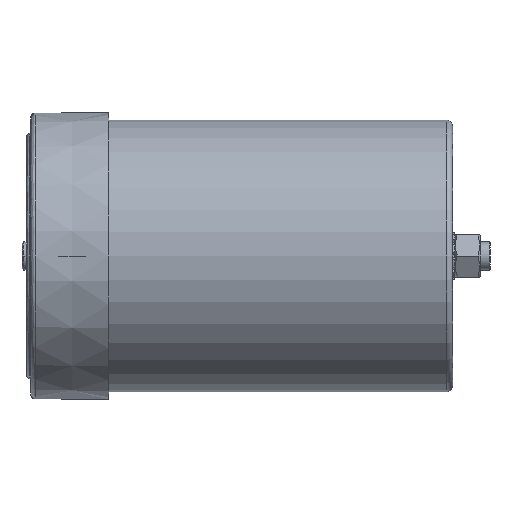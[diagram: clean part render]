
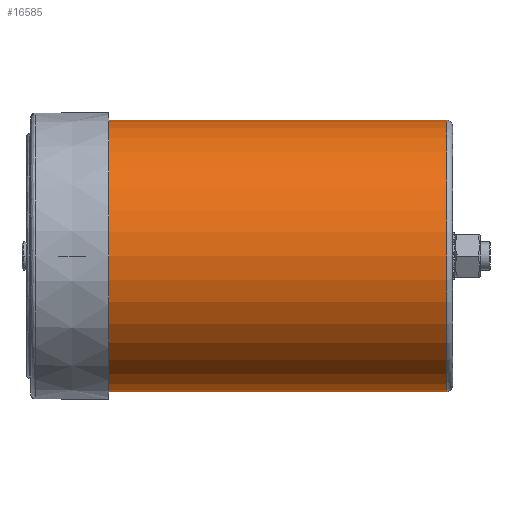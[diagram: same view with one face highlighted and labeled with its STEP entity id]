
A CAD part, left-side view. The second image highlights one B-rep face of the part: STEP entity #16585.
In plain terms, the highlighted cylindrical face has radius 58 mm (diameter 116 mm), a partial arc.
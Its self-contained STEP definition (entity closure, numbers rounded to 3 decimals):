
#382 = DIRECTION ( 'NONE',  ( 0., -1., 0. ) ) ;
#1664 = VERTEX_POINT ( 'NONE', #2000 ) ;
#1914 = CARTESIAN_POINT ( 'NONE',  ( 0., -177.4, 58. ) ) ;
#1940 = DIRECTION ( 'NONE',  ( 0., 1., 0. ) ) ;
#1957 = EDGE_CURVE ( 'NONE', #8428, #1664, #15892, .T. ) ;
#2000 = CARTESIAN_POINT ( 'NONE',  ( 0., -174.9, 58. ) ) ;
#2607 = AXIS2_PLACEMENT_3D ( 'NONE', #14668, #1940, #6839 ) ;
#4016 = EDGE_LOOP ( 'NONE', ( #7597, #19529, #9023, #19043 ) ) ;
#4641 = VECTOR ( 'NONE', #18711, 1000. ) ;
#6839 = DIRECTION ( 'NONE',  ( 0., 0., -1. ) ) ;
#7531 = FACE_OUTER_BOUND ( 'NONE', #4016, .T. ) ;
#7597 = ORIENTED_EDGE ( 'NONE', *, *, #12814, .F. ) ;
#8428 = VERTEX_POINT ( 'NONE', #11273 ) ;
#9023 = ORIENTED_EDGE ( 'NONE', *, *, #15358, .T. ) ;
#9348 = DIRECTION ( 'NONE',  ( 0., 0., -1. ) ) ;
#9513 = DIRECTION ( 'NONE',  ( 0., -1., 0. ) ) ;
#10337 = LINE ( 'NONE', #1914, #19250 ) ;
#10958 = CARTESIAN_POINT ( 'NONE',  ( 0., -174.9, 0. ) ) ;
#11273 = CARTESIAN_POINT ( 'NONE',  ( 0., -174.9, -58. ) ) ;
#11865 = AXIS2_PLACEMENT_3D ( 'NONE', #10958, #18822, #9348 ) ;
#12423 = CARTESIAN_POINT ( 'NONE',  ( 0., -177.4, -58. ) ) ;
#12814 = EDGE_CURVE ( 'NONE', #14077, #1664, #10337, .T. ) ;
#13950 = AXIS2_PLACEMENT_3D ( 'NONE', #15746, #9513, #18985 ) ;
#14077 = VERTEX_POINT ( 'NONE', #15894 ) ;
#14610 = CARTESIAN_POINT ( 'NONE',  ( 0., 0., -58. ) ) ;
#14668 = CARTESIAN_POINT ( 'NONE',  ( 0., 0., 0. ) ) ;
#15358 = EDGE_CURVE ( 'NONE', #19738, #8428, #20429, .T. ) ;
#15746 = CARTESIAN_POINT ( 'NONE',  ( 0., -177.4, 0. ) ) ;
#15862 = CIRCLE ( 'NONE', #2607, 58. ) ;
#15892 = CIRCLE ( 'NONE', #11865, 58. ) ;
#15894 = CARTESIAN_POINT ( 'NONE',  ( 0., 0., 58. ) ) ;
#16585 = ADVANCED_FACE ( 'NONE', ( #7531 ), #18621, .T. ) ;
#16728 = EDGE_CURVE ( 'NONE', #19738, #14077, #15862, .T. ) ;
#18621 = CYLINDRICAL_SURFACE ( 'NONE', #13950, 58. ) ;
#18711 = DIRECTION ( 'NONE',  ( 0., -1., 0. ) ) ;
#18822 = DIRECTION ( 'NONE',  ( 0., 1., 0. ) ) ;
#18985 = DIRECTION ( 'NONE',  ( 0., 0., -1. ) ) ;
#19043 = ORIENTED_EDGE ( 'NONE', *, *, #1957, .T. ) ;
#19250 = VECTOR ( 'NONE', #382, 1000. ) ;
#19529 = ORIENTED_EDGE ( 'NONE', *, *, #16728, .F. ) ;
#19738 = VERTEX_POINT ( 'NONE', #14610 ) ;
#20429 = LINE ( 'NONE', #12423, #4641 ) ;
